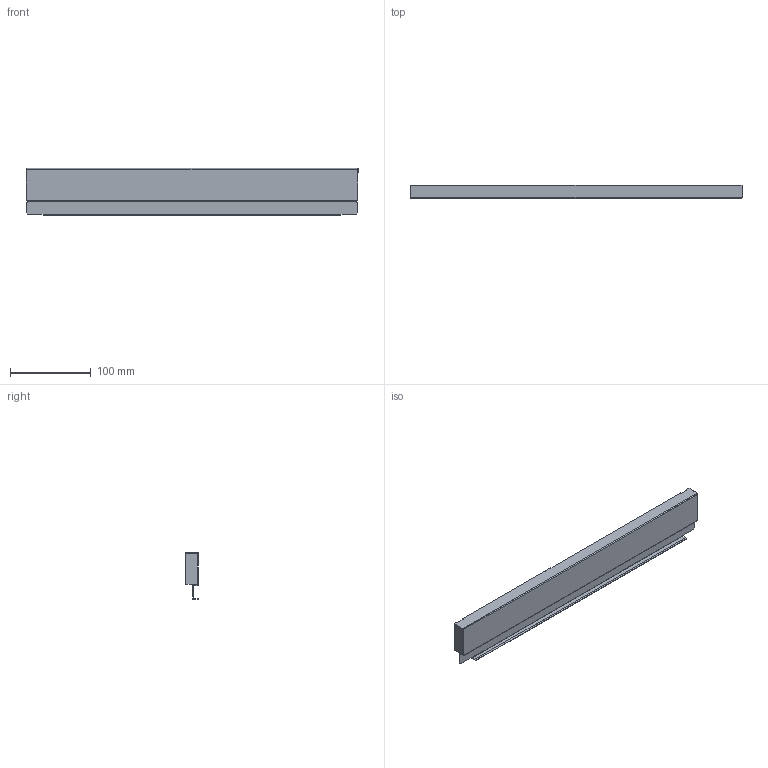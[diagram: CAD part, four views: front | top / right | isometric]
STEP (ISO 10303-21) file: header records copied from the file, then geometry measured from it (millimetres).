
FILE_DESCRIPTION (( 'STEP AP214' ), '1' );
FILE_NAME ('_STRW_H63_KAB_500.step', '2010-08-24T14:40:50', ( 'grass' ), ( '' ), 'SwSTEP 2.0', 'SolidWorks 2009', '' );
FILE_SCHEMA (( 'AUTOMOTIVE_DESIGN' ));
Length unit declared in the file: millimetre
Products named in the file (1): _STRW_H63_KAB_500
Bounding box: 410 x 17 x 58.14 mm (x, y, z)
Volume: 28803.1 mm3; surface area: 72874.1 mm2
Topology: 1 solids, 1 shells, 77 faces, 217 edges, 142 vertices
Faces by surface type: plane 54, cylinder 23
Entity records: 2507 total; most frequent: CARTESIAN_POINT 437, ORIENTED_EDGE 434, DIRECTION 419, EDGE_CURVE 217, LINE 171, VECTOR 171, VERTEX_POINT 142, AXIS2_PLACEMENT_3D 124
